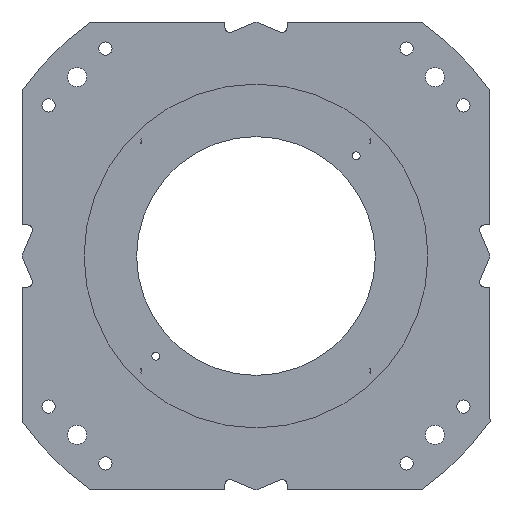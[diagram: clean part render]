
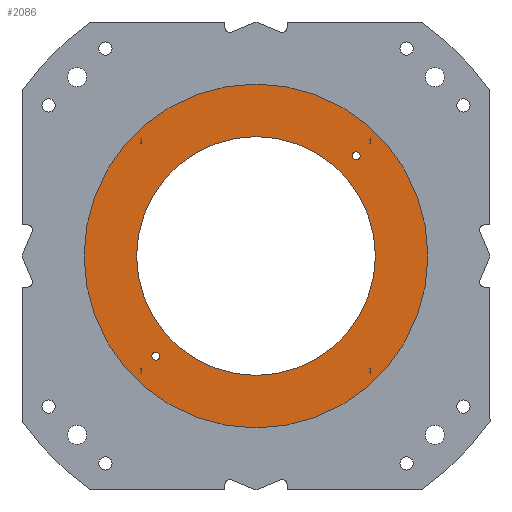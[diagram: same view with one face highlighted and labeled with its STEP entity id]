
A CAD part, front view. The second image highlights one B-rep face of the part: STEP entity #2086.
In plain terms, the highlighted planar face has unit normal (0, -1, 0).
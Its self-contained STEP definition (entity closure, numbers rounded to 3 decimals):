
#69 = ORIENTED_EDGE ( 'NONE', *, *, #990, .F. ) ;
#377 = ORIENTED_EDGE ( 'NONE', *, *, #7205, .F. ) ;
#423 = VERTEX_POINT ( 'NONE', #2936 ) ;
#588 = CARTESIAN_POINT ( 'NONE',  ( -105., 663., -105. ) ) ;
#700 = CARTESIAN_POINT ( 'NONE',  ( 105., 663., 101. ) ) ;
#788 = CARTESIAN_POINT ( 'NONE',  ( 0., 663., 180. ) ) ;
#802 = FACE_OUTER_BOUND ( 'NONE', #10287, .T. ) ;
#805 = EDGE_CURVE ( 'NONE', #9508, #1922, #1451, .T. ) ;
#872 = CIRCLE ( 'NONE', #11490, 4. ) ;
#988 = VERTEX_POINT ( 'NONE', #6434 ) ;
#990 = EDGE_CURVE ( 'NONE', #1922, #9508, #4271, .T. ) ;
#1232 = AXIS2_PLACEMENT_3D ( 'NONE', #6569, #9257, #8392 ) ;
#1451 = CIRCLE ( 'NONE', #2201, 4. ) ;
#1490 = CARTESIAN_POINT ( 'NONE',  ( -105., 663., -105. ) ) ;
#1922 = VERTEX_POINT ( 'NONE', #700 ) ;
#2086 = ADVANCED_FACE ( 'NONE', ( #7825, #6058, #9737, #802 ), #7941, .T. ) ;
#2094 = EDGE_LOOP ( 'NONE', ( #9122, #2951 ) ) ;
#2201 = AXIS2_PLACEMENT_3D ( 'NONE', #10194, #8512, #5764 ) ;
#2247 = VERTEX_POINT ( 'NONE', #788 ) ;
#2384 = DIRECTION ( 'NONE',  ( 0., 1., 0. ) ) ;
#2403 = EDGE_CURVE ( 'NONE', #4346, #5739, #872, .T. ) ;
#2800 = AXIS2_PLACEMENT_3D ( 'NONE', #11127, #3147, #7415 ) ;
#2936 = CARTESIAN_POINT ( 'NONE',  ( 0., 663., 125. ) ) ;
#2951 = ORIENTED_EDGE ( 'NONE', *, *, #10024, .F. ) ;
#3147 = DIRECTION ( 'NONE',  ( 0., -1., 0. ) ) ;
#3354 = EDGE_CURVE ( 'NONE', #423, #10909, #5960, .T. ) ;
#3456 = DIRECTION ( 'NONE',  ( 0., -1., 0. ) ) ;
#3538 = CIRCLE ( 'NONE', #8387, 125. ) ;
#3915 = ORIENTED_EDGE ( 'NONE', *, *, #8130, .F. ) ;
#4167 = DIRECTION ( 'NONE',  ( 0., 0., -1. ) ) ;
#4257 = EDGE_LOOP ( 'NONE', ( #8607, #69 ) ) ;
#4271 = CIRCLE ( 'NONE', #6878, 4. ) ;
#4324 = CARTESIAN_POINT ( 'NONE',  ( 0., 663., 0. ) ) ;
#4346 = VERTEX_POINT ( 'NONE', #5604 ) ;
#5057 = DIRECTION ( 'NONE',  ( 0., -1., 0. ) ) ;
#5557 = CARTESIAN_POINT ( 'NONE',  ( 105., 663., 105. ) ) ;
#5604 = CARTESIAN_POINT ( 'NONE',  ( -105., 663., -101. ) ) ;
#5739 = VERTEX_POINT ( 'NONE', #7741 ) ;
#5764 = DIRECTION ( 'NONE',  ( 0., 0., -1. ) ) ;
#5960 = CIRCLE ( 'NONE', #2800, 125. ) ;
#5985 = DIRECTION ( 'NONE',  ( 0., 0., -1. ) ) ;
#6058 = FACE_BOUND ( 'NONE', #11522, .T. ) ;
#6434 = CARTESIAN_POINT ( 'NONE',  ( 0., 663., -180. ) ) ;
#6545 = DIRECTION ( 'NONE',  ( 0., 0., -1. ) ) ;
#6569 = CARTESIAN_POINT ( 'NONE',  ( 0., 663., 0. ) ) ;
#6878 = AXIS2_PLACEMENT_3D ( 'NONE', #5557, #9177, #6545 ) ;
#6886 = DIRECTION ( 'NONE',  ( 0., 0., -1. ) ) ;
#6938 = DIRECTION ( 'NONE',  ( 0., 0., -1. ) ) ;
#6987 = ORIENTED_EDGE ( 'NONE', *, *, #7337, .F. ) ;
#7205 = EDGE_CURVE ( 'NONE', #988, #2247, #8897, .T. ) ;
#7337 = EDGE_CURVE ( 'NONE', #2247, #988, #7394, .T. ) ;
#7394 = CIRCLE ( 'NONE', #11492, 180. ) ;
#7413 = AXIS2_PLACEMENT_3D ( 'NONE', #588, #3456, #4167 ) ;
#7415 = DIRECTION ( 'NONE',  ( 0., 0., -1. ) ) ;
#7741 = CARTESIAN_POINT ( 'NONE',  ( -105., 663., -109. ) ) ;
#7811 = CARTESIAN_POINT ( 'NONE',  ( 0., 663., 0. ) ) ;
#7825 = FACE_BOUND ( 'NONE', #4257, .T. ) ;
#7941 = PLANE ( 'NONE',  #8333 ) ;
#8130 = EDGE_CURVE ( 'NONE', #5739, #4346, #9470, .T. ) ;
#8333 = AXIS2_PLACEMENT_3D ( 'NONE', #4324, #11479, #6886 ) ;
#8387 = AXIS2_PLACEMENT_3D ( 'NONE', #7811, #11345, #6938 ) ;
#8392 = DIRECTION ( 'NONE',  ( 0., 0., 1. ) ) ;
#8512 = DIRECTION ( 'NONE',  ( 0., -1., 0. ) ) ;
#8607 = ORIENTED_EDGE ( 'NONE', *, *, #805, .F. ) ;
#8897 = CIRCLE ( 'NONE', #1232, 180. ) ;
#9048 = ORIENTED_EDGE ( 'NONE', *, *, #2403, .F. ) ;
#9122 = ORIENTED_EDGE ( 'NONE', *, *, #3354, .F. ) ;
#9171 = CARTESIAN_POINT ( 'NONE',  ( 105., 663., 109. ) ) ;
#9177 = DIRECTION ( 'NONE',  ( 0., -1., 0. ) ) ;
#9182 = CARTESIAN_POINT ( 'NONE',  ( 0., 663., 0. ) ) ;
#9257 = DIRECTION ( 'NONE',  ( 0., 1., 0. ) ) ;
#9470 = CIRCLE ( 'NONE', #7413, 4. ) ;
#9508 = VERTEX_POINT ( 'NONE', #9171 ) ;
#9737 = FACE_BOUND ( 'NONE', #2094, .T. ) ;
#10024 = EDGE_CURVE ( 'NONE', #10909, #423, #3538, .T. ) ;
#10194 = CARTESIAN_POINT ( 'NONE',  ( 105., 663., 105. ) ) ;
#10287 = EDGE_LOOP ( 'NONE', ( #6987, #377 ) ) ;
#10909 = VERTEX_POINT ( 'NONE', #11574 ) ;
#10975 = DIRECTION ( 'NONE',  ( 0., 0., 1. ) ) ;
#11127 = CARTESIAN_POINT ( 'NONE',  ( 0., 663., 0. ) ) ;
#11345 = DIRECTION ( 'NONE',  ( 0., -1., 0. ) ) ;
#11479 = DIRECTION ( 'NONE',  ( 0., -1., 0. ) ) ;
#11490 = AXIS2_PLACEMENT_3D ( 'NONE', #1490, #5057, #5985 ) ;
#11492 = AXIS2_PLACEMENT_3D ( 'NONE', #9182, #2384, #10975 ) ;
#11522 = EDGE_LOOP ( 'NONE', ( #9048, #3915 ) ) ;
#11574 = CARTESIAN_POINT ( 'NONE',  ( 0., 663., -125. ) ) ;
